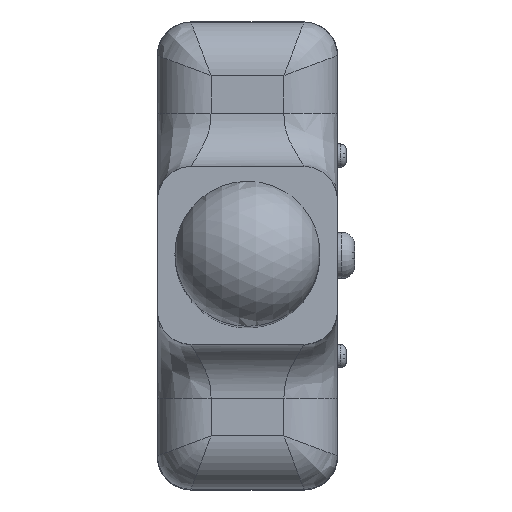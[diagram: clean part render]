
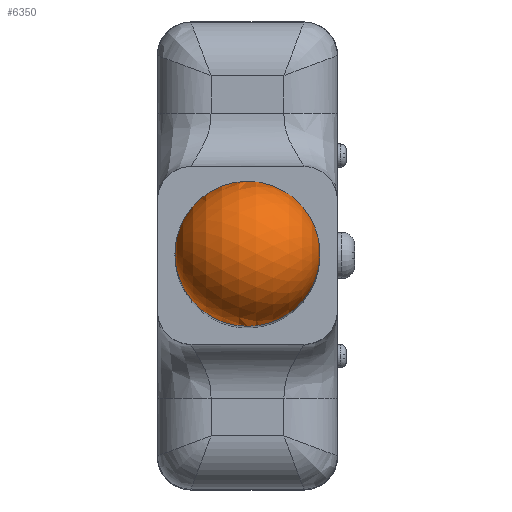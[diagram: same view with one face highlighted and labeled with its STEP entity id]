
A CAD part, top view. The second image highlights one B-rep face of the part: STEP entity #6350.
In plain terms, the highlighted spherical face has radius 10.85 mm.
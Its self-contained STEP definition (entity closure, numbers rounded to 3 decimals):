
#102 = AXIS2_PLACEMENT_3D ( 'NONE', #7226, #3909, #1110 ) ;
#1110 = DIRECTION ( 'NONE',  ( 0., 1., 0. ) ) ;
#1219 = SPHERICAL_SURFACE ( 'NONE', #102, 10.85 ) ;
#1434 = EDGE_CURVE ( 'NONE', #3144, #3144, #4441, .T. ) ;
#2560 = ORIENTED_EDGE ( 'NONE', *, *, #1434, .F. ) ;
#2678 = DIRECTION ( 'NONE',  ( 0., 0., -1. ) ) ;
#2937 = AXIS2_PLACEMENT_3D ( 'NONE', #4048, #2678, #5616 ) ;
#3144 = VERTEX_POINT ( 'NONE', #4232 ) ;
#3806 = EDGE_LOOP ( 'NONE', ( #2560 ) ) ;
#3909 = DIRECTION ( 'NONE',  ( 1., 0., 0. ) ) ;
#4012 = FACE_OUTER_BOUND ( 'NONE', #3806, .T. ) ;
#4048 = CARTESIAN_POINT ( 'NONE',  ( 985.605, 990.454, 1199.916 ) ) ;
#4232 = CARTESIAN_POINT ( 'NONE',  ( 985.605, 1001.304, 1199.916 ) ) ;
#4441 = CIRCLE ( 'NONE', #2937, 10.85 ) ;
#5616 = DIRECTION ( 'NONE',  ( 0., 1., 0. ) ) ;
#6350 = ADVANCED_FACE ( 'NONE', ( #4012 ), #1219, .T. ) ;
#7226 = CARTESIAN_POINT ( 'NONE',  ( 985.605, 990.454, 1199.916 ) ) ;
